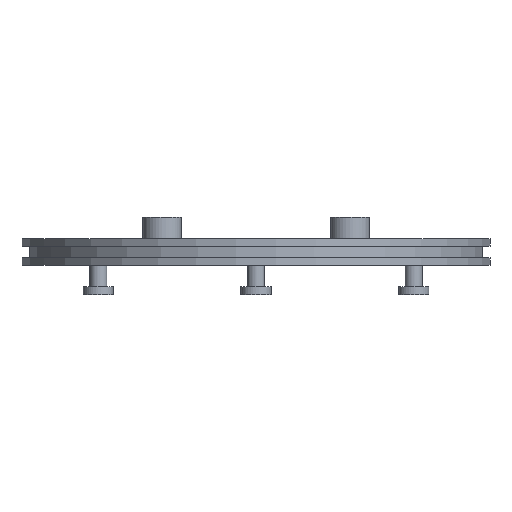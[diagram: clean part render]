
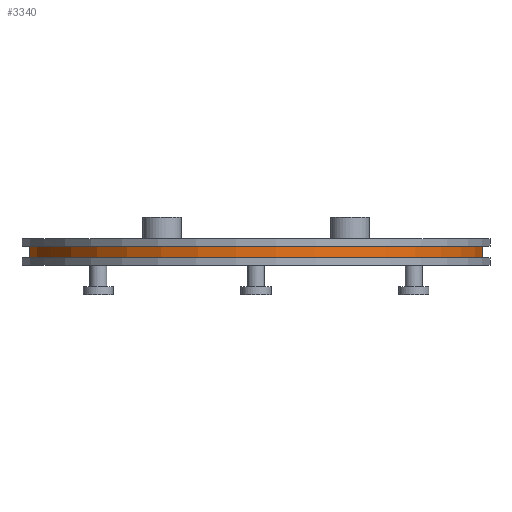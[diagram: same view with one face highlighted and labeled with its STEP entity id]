
A CAD part, left-side view. The second image highlights one B-rep face of the part: STEP entity #3340.
In plain terms, the highlighted cylindrical face has radius 42.5 mm (diameter 85 mm), a partial arc.
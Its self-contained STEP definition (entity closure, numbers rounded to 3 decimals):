
#429 = PLANE('',#430);
#430 = AXIS2_PLACEMENT_3D('',#431,#432,#433);
#431 = CARTESIAN_POINT('',(-4.5,40.8,-1.997));
#432 = DIRECTION('',(-1.,0.,0.));
#433 = DIRECTION('',(0.,0.,1.));
#486 = PLANE('',#487);
#487 = AXIS2_PLACEMENT_3D('',#488,#489,#490);
#488 = CARTESIAN_POINT('',(-4.5,-40.8,-1.997));
#489 = DIRECTION('',(1.,0.,0.));
#490 = DIRECTION('',(0.,0.,1.));
#1791 = VERTEX_POINT('',#1792);
#1792 = CARTESIAN_POINT('',(-4.5,42.261,9.103));
#1806 = PLANE('',#1807);
#1807 = AXIS2_PLACEMENT_3D('',#1808,#1809,#1810);
#1808 = CARTESIAN_POINT('',(0.,0.,
    9.103));
#1809 = DIRECTION('',(0.,0.,1.));
#1810 = DIRECTION('',(1.,0.,-0.));
#1818 = EDGE_CURVE('',#1791,#1819,#1821,.T.);
#1819 = VERTEX_POINT('',#1820);
#1820 = CARTESIAN_POINT('',(-4.5,42.261,6.903));
#1821 = SURFACE_CURVE('',#1822,(#1826,#1833),.PCURVE_S1.);
#1822 = LINE('',#1823,#1824);
#1823 = CARTESIAN_POINT('',(-4.5,42.261,6.903));
#1824 = VECTOR('',#1825,1.);
#1825 = DIRECTION('',(-0.,-0.,-1.));
#1826 = PCURVE('',#429,#1827);
#1827 = DEFINITIONAL_REPRESENTATION('',(#1828),#1832);
#1828 = LINE('',#1829,#1830);
#1829 = CARTESIAN_POINT('',(8.9,1.461));
#1830 = VECTOR('',#1831,1.);
#1831 = DIRECTION('',(-1.,0.));
#1832 = ( GEOMETRIC_REPRESENTATION_CONTEXT(2) 
PARAMETRIC_REPRESENTATION_CONTEXT() REPRESENTATION_CONTEXT('2D SPACE',''
  ) );
#1833 = PCURVE('',#1834,#1839);
#1834 = CYLINDRICAL_SURFACE('',#1835,42.5);
#1835 = AXIS2_PLACEMENT_3D('',#1836,#1837,#1838);
#1836 = CARTESIAN_POINT('',(0.,0.,
    6.903));
#1837 = DIRECTION('',(-0.,-0.,-1.));
#1838 = DIRECTION('',(1.,0.,0.));
#1839 = DEFINITIONAL_REPRESENTATION('',(#1840),#1844);
#1840 = LINE('',#1841,#1842);
#1841 = CARTESIAN_POINT('',(-1.677,0.));
#1842 = VECTOR('',#1843,1.);
#1843 = DIRECTION('',(-0.,1.));
#1844 = ( GEOMETRIC_REPRESENTATION_CONTEXT(2) 
PARAMETRIC_REPRESENTATION_CONTEXT() REPRESENTATION_CONTEXT('2D SPACE',''
  ) );
#1862 = PLANE('',#1863);
#1863 = AXIS2_PLACEMENT_3D('',#1864,#1865,#1866);
#1864 = CARTESIAN_POINT('',(0.,0.,
    6.903));
#1865 = DIRECTION('',(0.,0.,1.));
#1866 = DIRECTION('',(1.,0.,-0.));
#1932 = VERTEX_POINT('',#1933);
#1933 = CARTESIAN_POINT('',(-4.5,-42.261,9.103));
#1954 = EDGE_CURVE('',#1932,#1955,#1957,.T.);
#1955 = VERTEX_POINT('',#1956);
#1956 = CARTESIAN_POINT('',(-4.5,-42.261,6.903));
#1957 = SURFACE_CURVE('',#1958,(#1962,#1969),.PCURVE_S1.);
#1958 = LINE('',#1959,#1960);
#1959 = CARTESIAN_POINT('',(-4.5,-42.261,6.903));
#1960 = VECTOR('',#1961,1.);
#1961 = DIRECTION('',(-0.,-0.,-1.));
#1962 = PCURVE('',#486,#1963);
#1963 = DEFINITIONAL_REPRESENTATION('',(#1964),#1968);
#1964 = LINE('',#1965,#1966);
#1965 = CARTESIAN_POINT('',(8.9,1.461));
#1966 = VECTOR('',#1967,1.);
#1967 = DIRECTION('',(-1.,-0.));
#1968 = ( GEOMETRIC_REPRESENTATION_CONTEXT(2) 
PARAMETRIC_REPRESENTATION_CONTEXT() REPRESENTATION_CONTEXT('2D SPACE',''
  ) );
#1969 = PCURVE('',#1834,#1970);
#1970 = DEFINITIONAL_REPRESENTATION('',(#1971),#1975);
#1971 = LINE('',#1972,#1973);
#1972 = CARTESIAN_POINT('',(-4.606,0.));
#1973 = VECTOR('',#1974,1.);
#1974 = DIRECTION('',(-0.,1.));
#1975 = ( GEOMETRIC_REPRESENTATION_CONTEXT(2) 
PARAMETRIC_REPRESENTATION_CONTEXT() REPRESENTATION_CONTEXT('2D SPACE',''
  ) );
#3315 = EDGE_CURVE('',#1955,#1819,#3316,.T.);
#3316 = SURFACE_CURVE('',#3317,(#3322,#3333),.PCURVE_S1.);
#3317 = CIRCLE('',#3318,42.5);
#3318 = AXIS2_PLACEMENT_3D('',#3319,#3320,#3321);
#3319 = CARTESIAN_POINT('',(0.,0.,
    6.903));
#3320 = DIRECTION('',(0.,0.,-1.));
#3321 = DIRECTION('',(0.106,0.994,0.));
#3322 = PCURVE('',#1862,#3323);
#3323 = DEFINITIONAL_REPRESENTATION('',(#3324),#3332);
#3324 = ( BOUNDED_CURVE() B_SPLINE_CURVE(2,(#3325,#3326,#3327,#3328,
#3329,#3330,#3331),.UNSPECIFIED.,.T.,.F.) B_SPLINE_CURVE_WITH_KNOTS((1,2
    ,2,2,2,1),(-2.094,0.,2.094,4.189,
6.283,8.378),.UNSPECIFIED.) CURVE() 
GEOMETRIC_REPRESENTATION_ITEM() RATIONAL_B_SPLINE_CURVE((1.,0.5,1.,0.5,
1.,0.5,1.)) REPRESENTATION_ITEM('') );
#3325 = CARTESIAN_POINT('',(4.5,42.261));
#3326 = CARTESIAN_POINT('',(77.698,34.467));
#3327 = CARTESIAN_POINT('',(34.349,-25.028));
#3328 = CARTESIAN_POINT('',(-9.,-84.522));
#3329 = CARTESIAN_POINT('',(-38.849,-17.233));
#3330 = CARTESIAN_POINT('',(-68.698,50.055));
#3331 = CARTESIAN_POINT('',(4.5,42.261));
#3332 = ( GEOMETRIC_REPRESENTATION_CONTEXT(2) 
PARAMETRIC_REPRESENTATION_CONTEXT() REPRESENTATION_CONTEXT('2D SPACE',''
  ) );
#3333 = PCURVE('',#1834,#3334);
#3334 = DEFINITIONAL_REPRESENTATION('',(#3335),#3339);
#3335 = LINE('',#3336,#3337);
#3336 = CARTESIAN_POINT('',(-7.748,0.));
#3337 = VECTOR('',#3338,1.);
#3338 = DIRECTION('',(1.,-0.));
#3339 = ( GEOMETRIC_REPRESENTATION_CONTEXT(2) 
PARAMETRIC_REPRESENTATION_CONTEXT() REPRESENTATION_CONTEXT('2D SPACE',''
  ) );
#3340 = ADVANCED_FACE('',(#3341),#1834,.T.);
#3341 = FACE_BOUND('',#3342,.F.);
#3342 = EDGE_LOOP('',(#3343,#3369,#3370,#3371));
#3343 = ORIENTED_EDGE('',*,*,#3344,.F.);
#3344 = EDGE_CURVE('',#1932,#1791,#3345,.T.);
#3345 = SURFACE_CURVE('',#3346,(#3351,#3358),.PCURVE_S1.);
#3346 = CIRCLE('',#3347,42.5);
#3347 = AXIS2_PLACEMENT_3D('',#3348,#3349,#3350);
#3348 = CARTESIAN_POINT('',(0.,0.,
    9.103));
#3349 = DIRECTION('',(0.,0.,-1.));
#3350 = DIRECTION('',(0.106,0.994,0.));
#3351 = PCURVE('',#1834,#3352);
#3352 = DEFINITIONAL_REPRESENTATION('',(#3353),#3357);
#3353 = LINE('',#3354,#3355);
#3354 = CARTESIAN_POINT('',(-7.748,-2.2));
#3355 = VECTOR('',#3356,1.);
#3356 = DIRECTION('',(1.,-0.));
#3357 = ( GEOMETRIC_REPRESENTATION_CONTEXT(2) 
PARAMETRIC_REPRESENTATION_CONTEXT() REPRESENTATION_CONTEXT('2D SPACE',''
  ) );
#3358 = PCURVE('',#1806,#3359);
#3359 = DEFINITIONAL_REPRESENTATION('',(#3360),#3368);
#3360 = ( BOUNDED_CURVE() B_SPLINE_CURVE(2,(#3361,#3362,#3363,#3364,
#3365,#3366,#3367),.UNSPECIFIED.,.T.,.F.) B_SPLINE_CURVE_WITH_KNOTS((1,2
    ,2,2,2,1),(-2.094,0.,2.094,4.189,
6.283,8.378),.UNSPECIFIED.) CURVE() 
GEOMETRIC_REPRESENTATION_ITEM() RATIONAL_B_SPLINE_CURVE((1.,0.5,1.,0.5,
1.,0.5,1.)) REPRESENTATION_ITEM('') );
#3361 = CARTESIAN_POINT('',(4.5,42.261));
#3362 = CARTESIAN_POINT('',(77.698,34.467));
#3363 = CARTESIAN_POINT('',(34.349,-25.028));
#3364 = CARTESIAN_POINT('',(-9.,-84.522));
#3365 = CARTESIAN_POINT('',(-38.849,-17.233));
#3366 = CARTESIAN_POINT('',(-68.698,50.055));
#3367 = CARTESIAN_POINT('',(4.5,42.261));
#3368 = ( GEOMETRIC_REPRESENTATION_CONTEXT(2) 
PARAMETRIC_REPRESENTATION_CONTEXT() REPRESENTATION_CONTEXT('2D SPACE',''
  ) );
#3369 = ORIENTED_EDGE('',*,*,#1954,.T.);
#3370 = ORIENTED_EDGE('',*,*,#3315,.T.);
#3371 = ORIENTED_EDGE('',*,*,#1818,.F.);
